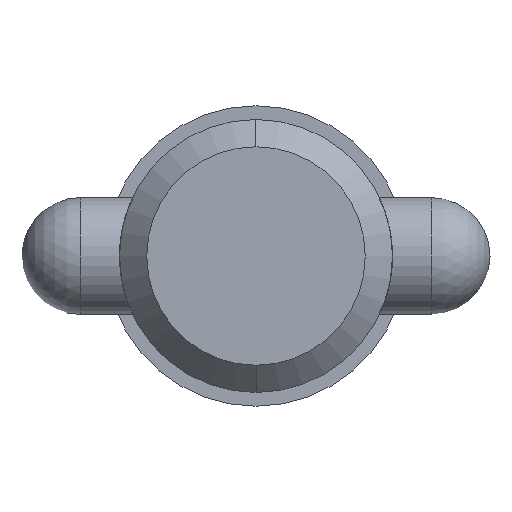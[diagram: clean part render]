
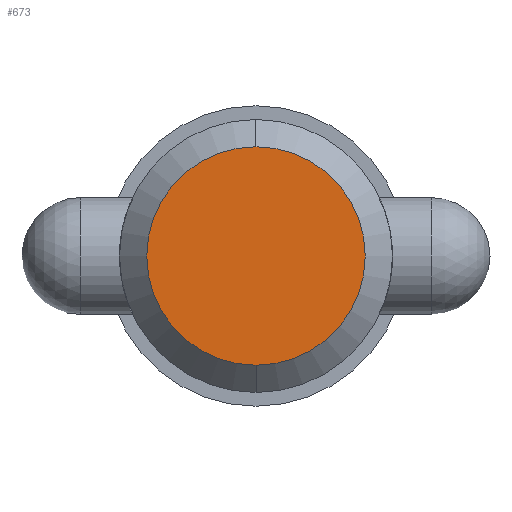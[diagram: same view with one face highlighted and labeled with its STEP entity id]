
A CAD part, left-side view. The second image highlights one B-rep face of the part: STEP entity #673.
In plain terms, the highlighted planar face has unit normal (-1, 0, 0).
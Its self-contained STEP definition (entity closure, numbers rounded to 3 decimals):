
#80 = AXIS2_PLACEMENT_3D ( 'NONE', #904, #229, #223 ) ;
#223 = DIRECTION ( 'NONE',  ( 0., 0., -1. ) ) ;
#229 = DIRECTION ( 'NONE',  ( 1., 0., 0. ) ) ;
#267 = DIRECTION ( 'NONE',  ( 0., 0., 1. ) ) ;
#283 = CIRCLE ( 'NONE', #885, 8.892 ) ;
#294 = EDGE_CURVE ( 'NONE', #833, #375, #283, .T. ) ;
#343 = FACE_OUTER_BOUND ( 'NONE', #362, .T. ) ;
#350 = PLANE ( 'NONE',  #501 ) ;
#362 = EDGE_LOOP ( 'NONE', ( #912, #588 ) ) ;
#375 = VERTEX_POINT ( 'NONE', #738 ) ;
#392 = CIRCLE ( 'NONE', #80, 8.892 ) ;
#460 = DIRECTION ( 'NONE',  ( 1., 0., 0. ) ) ;
#501 = AXIS2_PLACEMENT_3D ( 'NONE', #905, #668, #267 ) ;
#557 = CARTESIAN_POINT ( 'NONE',  ( 0., 0., 0. ) ) ;
#588 = ORIENTED_EDGE ( 'NONE', *, *, #294, .F. ) ;
#668 = DIRECTION ( 'NONE',  ( -1., 0., 0. ) ) ;
#673 = ADVANCED_FACE ( 'NONE', ( #343 ), #350, .T. ) ;
#738 = CARTESIAN_POINT ( 'NONE',  ( 0., 0., -8.892 ) ) ;
#750 = CARTESIAN_POINT ( 'NONE',  ( 0., 0., 8.892 ) ) ;
#833 = VERTEX_POINT ( 'NONE', #750 ) ;
#885 = AXIS2_PLACEMENT_3D ( 'NONE', #557, #460, #948 ) ;
#904 = CARTESIAN_POINT ( 'NONE',  ( 0., 0., 0. ) ) ;
#905 = CARTESIAN_POINT ( 'NONE',  ( 0., 0., 0. ) ) ;
#912 = ORIENTED_EDGE ( 'NONE', *, *, #991, .F. ) ;
#948 = DIRECTION ( 'NONE',  ( 0., 0., -1. ) ) ;
#991 = EDGE_CURVE ( 'NONE', #375, #833, #392, .T. ) ;
